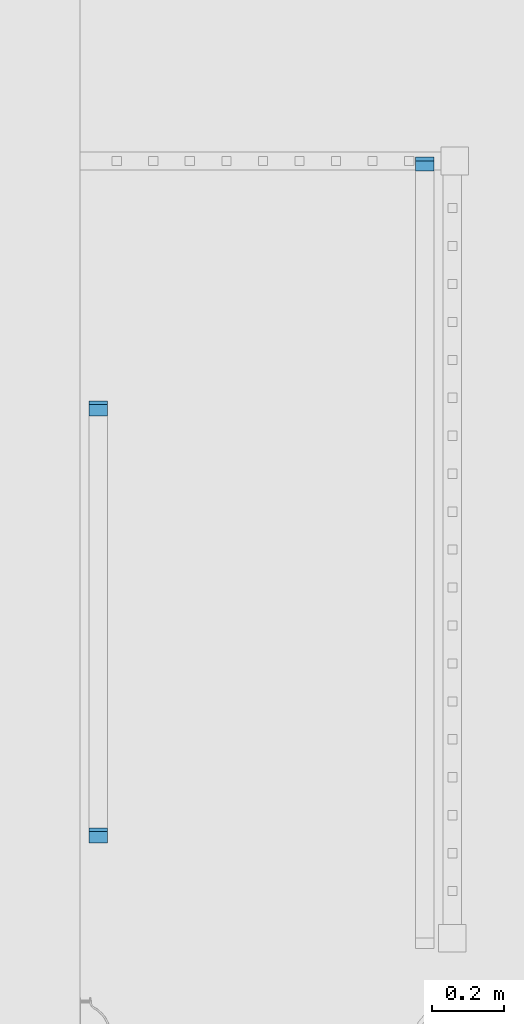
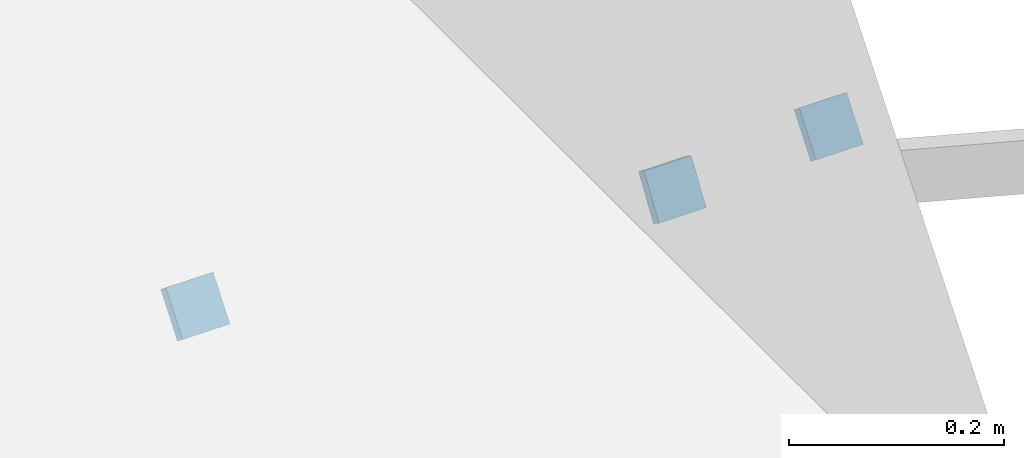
# One storey, part 8 of 103: 3 building element parts, 2 elements without a shape of their own.
"""IFC2X3 building model written with IfcOpenShell, lengths in inches."""

from ifc_helpers import new_model, entity, si_unit, converted_unit, derived_unit, money_unit, direction, frame, origin_with_axes, place, context, subcontext, project, spatial, faceted_brep, material, type_object, element, aggregate, save


model = new_model("IFC2X3")

# Units and contexts
model_context = context("Model", 3, precision=0.00039370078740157, world=origin_with_axes(), true_north=direction((0.0, 1.0)))
plan_context = context("Plan", 3, precision=0.00039370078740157, world=origin_with_axes(), true_north=direction((0.0, 1.0)))
body_context = subcontext(model_context, "Body", "Model", "MODEL_VIEW")
ifc_project = project(units=[converted_unit("LENGTHUNIT", "INCH", entity("IfcPositiveLengthMeasure", 0.0254), si_unit("LENGTHUNIT", "METRE"), dimensions=[1, 0, 0, 0, 0, 0, 0]), converted_unit("AREAUNIT", "SQUARE_FOOT", entity("IfcPositiveLengthMeasure", 0.09290304), si_unit("AREAUNIT", "SQUARE_METRE"), dimensions=[2, 0, 0, 0, 0, 0, 0]), si_unit("PLANEANGLEUNIT", "RADIAN"), si_unit("SOLIDANGLEUNIT", "STERADIAN"), money_unit("USD"), converted_unit("TIMEUNIT", "Year", entity("IfcTimeMeasure", 31557600.0), si_unit("TIMEUNIT", "SECOND"), dimensions=[0, 0, 1, 0, 0, 0, 0]), si_unit("MASSUNIT", "GRAM", prefix="KILO"), si_unit("THERMODYNAMICTEMPERATUREUNIT", "DEGREE_CELSIUS"), si_unit("LUMINOUSINTENSITYUNIT", "LUMEN"), si_unit("ENERGYUNIT", "JOULE", prefix="MEGA"), derived_unit("SPECIFICHEATCAPACITYUNIT", [(si_unit("ENERGYUNIT", "JOULE"), 1), (si_unit("MASSUNIT", "GRAM", prefix="KILO"), -1), (si_unit("THERMODYNAMICTEMPERATUREUNIT", "KELVIN"), -1)])], contexts=[model_context, plan_context])

# Site, building, storey
site_placement = place(None, origin_with_axes())
site = spatial("IfcSite", under=ifc_project, at=site_placement, Name="Site", CompositionType="ELEMENT")
building_placement = place(site_placement, origin_with_axes())
building = spatial("IfcBuilding", under=site, at=building_placement, Name="Building", CompositionType="ELEMENT")
storey_placement = place(building_placement, frame((0.0, 0.0, 127.9999999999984), z_axis=(0.0, 0.0, 1.0), x_axis=(1.0, 0.0, 0.0)))
storey = spatial("IfcBuildingStorey", under=building, at=storey_placement, Name="Second Floor", CompositionType="ELEMENT", Elevation=128.0)

# Proxy, building element parts
building_element_proxy_type = type_object("IfcBuildingElementProxyType", Name="Railing Type", PredefinedType="NOTDEFINED")
proxy_1_placement = place(storey_placement, frame((161.4999999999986, 59.4943774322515, -92.1176470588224), z_axis=(0.0, 0.0, 1.0), x_axis=(-1.0, 0.0, 0.0)))
proxy_1 = element("IfcBuildingElementProxy", 1, at=proxy_1_placement, inside=storey, type_object=building_element_proxy_type, Name="RAILING - 001")
ifc_material = material(Name="Wood - Trim")
building_element_part_1_placement = place(proxy_1_placement, origin_with_axes())
building_element_part_1 = element("IfcBuildingElementPart", 2, at=building_element_part_1_placement, material=ifc_material, Name="Wood - Trim", context=body_context, shape_type="Brep", body=[
    faceted_brep([(-0.968503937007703, 0.0, 75.88235294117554), (-0.968503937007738, 1.229639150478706, 74.30501735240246), (-0.968503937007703, 1.623973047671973, 74.6124271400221), (-0.968503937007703, 0.3943338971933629, 76.1897627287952), (-2.968503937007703, 0.0, 75.88235294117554), (-2.968503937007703, 1.229639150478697, 74.30501735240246), (-2.968503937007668, 1.62397304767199, 74.6124271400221), (-2.968503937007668, 0.3943338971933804, 76.1897627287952)], [[[0, 1, 2, 3]], [[0, 4, 5, 1]], [[1, 5, 6, 2]], [[3, 2, 6, 7]], [[4, 0, 3, 7]], [[5, 4, 7, 6]]]),
])
building_element_part_2_placement = place(proxy_1_placement, origin_with_axes())
building_element_part_2 = element("IfcBuildingElementPart", 3, at=building_element_part_2_placement, material=ifc_material, Name="Wood - Trim", context=body_context, shape_type="Brep", body=[
    faceted_brep([(-2.968503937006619, -46.02855421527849, 39.99999999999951), (-2.968503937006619, -44.79891506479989, 38.42266441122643), (-2.968503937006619, -45.19324896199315, 38.11525462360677), (-2.968503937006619, -46.42288811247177, 39.69259021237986), (-0.9685039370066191, -46.02855421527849, 39.99999999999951), (-0.968503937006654, -44.79891506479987, 38.42266441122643), (-0.9685039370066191, -45.19324896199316, 38.11525462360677), (-0.968503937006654, -46.42288811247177, 39.69259021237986)], [[[0, 1, 2, 3]], [[0, 4, 5, 1]], [[1, 5, 6, 2]], [[3, 2, 6, 7]], [[4, 0, 3, 7]], [[5, 4, 7, 6]]]),
])
aggregate(proxy_1, [building_element_part_1, building_element_part_2])

# Proxy, building element part
proxy_2_placement = place(storey_placement, frame((199.2671335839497, 59.28177900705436, -115.3908628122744), z_axis=(0.0, 0.0, 1.0), x_axis=(1.0, 0.0, 0.0)))
proxy_2 = element("IfcBuildingElementProxy", 4, at=proxy_2_placement, inside=storey, type_object=building_element_proxy_type, Name="RAILING - 001")
building_element_part_3_placement = place(proxy_2_placement, origin_with_axes())
building_element_part_3 = element("IfcBuildingElementPart", 5, at=building_element_part_3_placement, material=ifc_material, Name="Wood - Trim", context=body_context, shape_type="Brep", body=[
    faceted_brep([(0.720838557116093, 72.71822099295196, 39.99999999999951), (0.720838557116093, 71.6217697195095, 38.32733906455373), (0.720838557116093, 72.03993495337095, 38.05322624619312), (0.720838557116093, 73.1363862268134, 39.7258871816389), (-1.279161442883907, 72.71822099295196, 39.99999999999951), (-1.279161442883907, 71.6217697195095, 38.32733906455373), (-1.279161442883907, 72.03993495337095, 38.05322624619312), (-1.279161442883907, 73.1363862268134, 39.7258871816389)], [[[0, 1, 2, 3]], [[0, 4, 5, 1]], [[1, 5, 6, 2]], [[3, 2, 6, 7]], [[4, 0, 3, 7]], [[5, 4, 7, 6]]]),
])
aggregate(proxy_2, [building_element_part_3])

save(model, "model.ifc")
